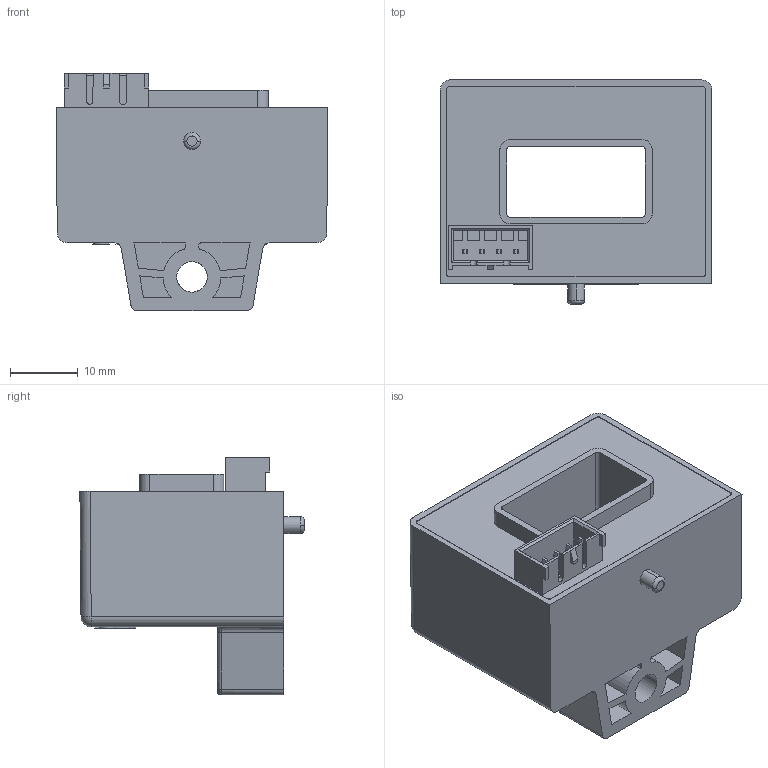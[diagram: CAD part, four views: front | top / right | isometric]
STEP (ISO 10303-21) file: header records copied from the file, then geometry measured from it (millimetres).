
FILE_DESCRIPTION(('Creo Elements/Direct Modeling STEP Export'),'2;1');
FILE_NAME('64.74.44.058.0_20200908.stp','2020-09-08T13:11:53',(''),(''),'Creo Elements/Direct Modeling STEP processor for AP214 (Solid Model)','Creo Elements/Direct Modeling 20.1 10-Mar-2018 (C) Parametric Technology GmbH','');
FILE_SCHEMA(('AUTOMOTIVE_DESIGN { 1 0 10303 214 1 1 1 1 }'));
Length unit declared in the file: millimetre
Products named in the file (2): 64.74.44.058.0_20200908
Assembly tree (1 placements, depth 2):
  64.74.44.058.0_20200908
    64.74.44.058.0_20200908
Bounding box: 40 x 33 x 35 mm (x, y, z)
Volume: 21022.9 mm3; surface area: 7673 mm2
Topology: 1 solids, 1 shells, 338 faces, 881 edges, 580 vertices
Faces by surface type: plane 267, cylinder 44, bspline 11, extrusion 9, sphere 3, cone 2, torus 2
Entity records: 12651 total; most frequent: CARTESIAN_POINT 3884, ORIENTED_EDGE 1758, DIRECTION 1487, EDGE_CURVE 879, VECTOR 729, LINE 720, VERTEX_POINT 580, AXIS2_PLACEMENT_3D 379
